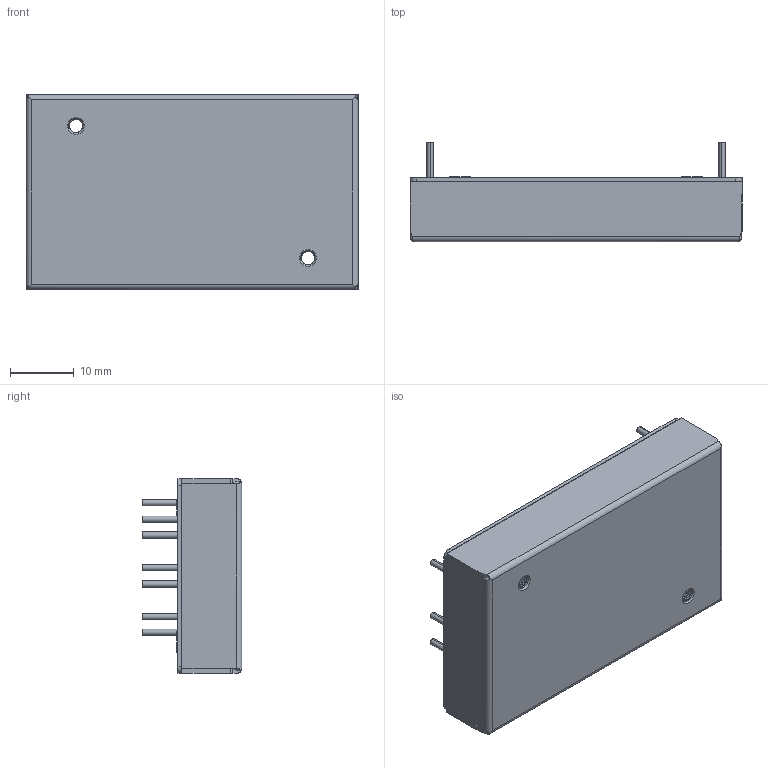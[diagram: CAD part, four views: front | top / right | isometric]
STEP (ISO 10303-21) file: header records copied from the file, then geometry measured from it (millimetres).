
FILE_DESCRIPTION (( 'STEP AP203' ), '1' );
FILE_NAME ('ECLB75W-1121026.STEP', '2023-10-26T03:51:08', ( 'cincon' ), ( '' ), 'SwSTEP 2.0', 'SolidWorks 2020', '' );
FILE_SCHEMA (( 'CONFIG_CONTROL_DESIGN' ));
Length unit declared in the file: millimetre
Products named in the file (1): ECLB75W-1121026
Bounding box: 52 x 15.6 x 30.5 mm (x, y, z)
Volume: 15782.4 mm3; surface area: 6927.9 mm2
Topology: 1 solids, 3 shells, 216 faces, 587 edges, 384 vertices
Faces by surface type: cylinder 133, plane 65, cone 14, bspline 4
Entity records: 10743 total; most frequent: CARTESIAN_POINT 5740, ORIENTED_EDGE 1174, DIRECTION 899, EDGE_CURVE 587, VERTEX_POINT 384, AXIS2_PLACEMENT_3D 315, VECTOR 269, LINE 269
